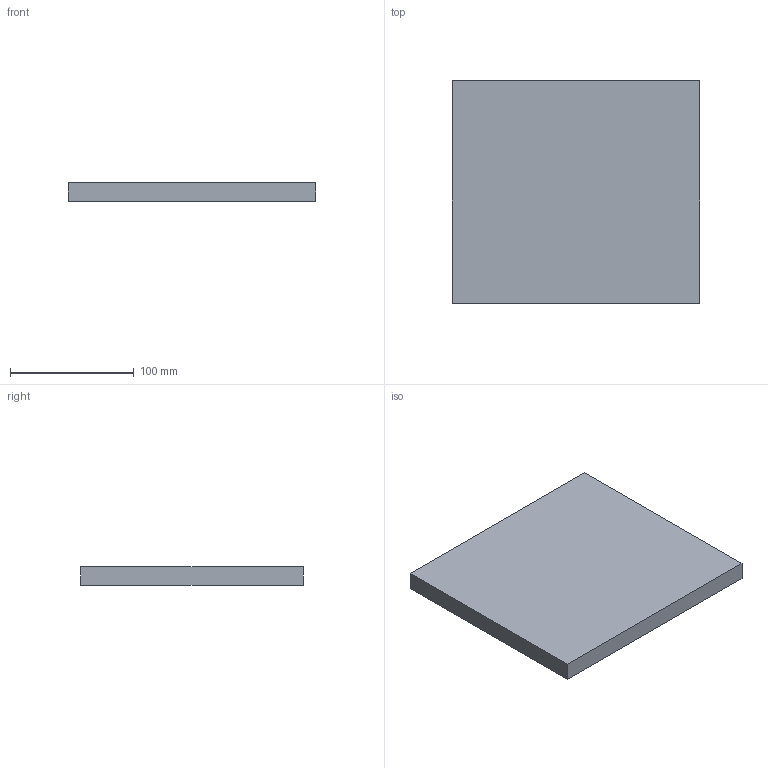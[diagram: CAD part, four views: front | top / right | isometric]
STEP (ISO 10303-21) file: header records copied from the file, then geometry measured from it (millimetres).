
FILE_DESCRIPTION(('Open CASCADE Model'),'2;1');
FILE_NAME('Open CASCADE Shape Model','2026-10-19T10:06:06',('Author'),( 'Open CASCADE'),'Open CASCADE STEP processor 7.8','Open CASCADE 7.8' ,'Unknown');
FILE_SCHEMA(('AUTOMOTIVE_DESIGN { 1 0 10303 214 1 1 1 1 }'));
Length unit declared in the file: millimetre
Products named in the file (1): Open CASCADE STEP translator 7.8 9
Bounding box: 200 x 180 x 15 mm (x, y, z)
Volume: 540000 mm3; surface area: 83400 mm2
Topology: 1 solids, 1 shells, 6 faces, 12 edges, 8 vertices
Faces by surface type: plane 6
Entity records: 322 total; most frequent: CARTESIAN_POINT 51, DIRECTION 50, LINE 36, VECTOR 36, ORIENTED_EDGE 24, PCURVE 24, DEFINITIONAL_REPRESENTATION 24, EDGE_CURVE 12
